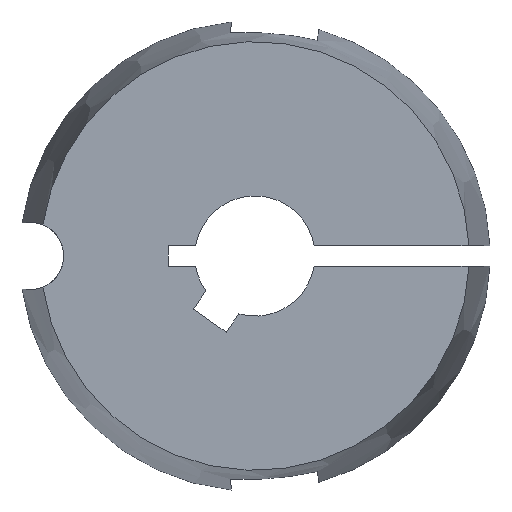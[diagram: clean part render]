
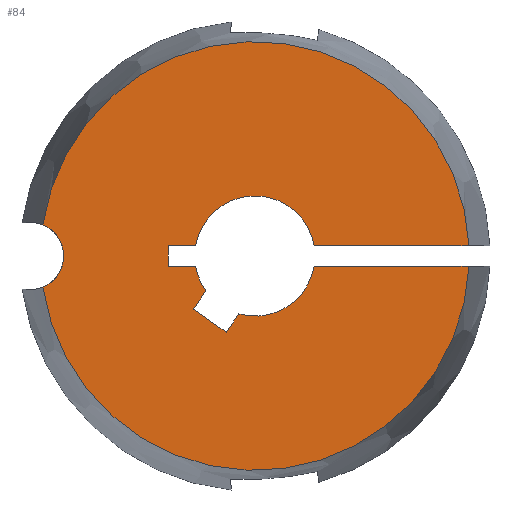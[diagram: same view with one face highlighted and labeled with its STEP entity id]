
A CAD part, left-side view. The second image highlights one B-rep face of the part: STEP entity #84.
In plain terms, the highlighted planar face has unit normal (-1, 0, 0).
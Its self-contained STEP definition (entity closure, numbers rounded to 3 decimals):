
#84 = ADVANCED_FACE( '', ( #114 ), #115, .F. );
#114 = FACE_OUTER_BOUND( '', #154, .T. );
#115 = PLANE( '', #155 );
#154 = EDGE_LOOP( '', ( #251, #252, #253, #254, #255, #256, #257, #258, #259, #260, #261, #262, #263, #264 ) );
#155 = AXIS2_PLACEMENT_3D( '', #265, #266, #267 );
#251 = ORIENTED_EDGE( '', *, *, #349, .T. );
#252 = ORIENTED_EDGE( '', *, *, #381, .F. );
#253 = ORIENTED_EDGE( '', *, *, #352, .T. );
#254 = ORIENTED_EDGE( '', *, *, #365, .T. );
#255 = ORIENTED_EDGE( '', *, *, #363, .T. );
#256 = ORIENTED_EDGE( '', *, *, #360, .T. );
#257 = ORIENTED_EDGE( '', *, *, #369, .T. );
#258 = ORIENTED_EDGE( '', *, *, #382, .T. );
#259 = ORIENTED_EDGE( '', *, *, #383, .T. );
#260 = ORIENTED_EDGE( '', *, *, #384, .T. );
#261 = ORIENTED_EDGE( '', *, *, #385, .T. );
#262 = ORIENTED_EDGE( '', *, *, #386, .T. );
#263 = ORIENTED_EDGE( '', *, *, #354, .T. );
#264 = ORIENTED_EDGE( '', *, *, #387, .F. );
#265 = CARTESIAN_POINT( '', ( -22.3, 0., 0. ) );
#266 = DIRECTION( '', ( 1., 0., 0. ) );
#267 = DIRECTION( '', ( 0., 1., 0. ) );
#349 = EDGE_CURVE( '', #402, #407, #409, .T. );
#352 = EDGE_CURVE( '', #415, #413, #416, .T. );
#354 = EDGE_CURVE( '', #418, #419, #420, .T. );
#360 = EDGE_CURVE( '', #431, #429, #432, .T. );
#363 = EDGE_CURVE( '', #436, #431, #437, .T. );
#365 = EDGE_CURVE( '', #413, #436, #439, .T. );
#369 = EDGE_CURVE( '', #429, #443, #445, .T. );
#381 = EDGE_CURVE( '', #415, #407, #465, .T. );
#382 = EDGE_CURVE( '', #443, #466, #467, .T. );
#383 = EDGE_CURVE( '', #466, #468, #469, .T. );
#384 = EDGE_CURVE( '', #468, #470, #471, .T. );
#385 = EDGE_CURVE( '', #470, #472, #473, .T. );
#386 = EDGE_CURVE( '', #472, #418, #474, .T. );
#387 = EDGE_CURVE( '', #402, #419, #475, .T. );
#402 = VERTEX_POINT( '', #513 );
#407 = VERTEX_POINT( '', #523 );
#409 = CIRCLE( '', #530, 2.55 );
#413 = VERTEX_POINT( '', #535 );
#415 = VERTEX_POINT( '', #538 );
#416 = LINE( '', #539, #540 );
#418 = VERTEX_POINT( '', #548 );
#419 = VERTEX_POINT( '', #549 );
#420 = LINE( '', #550, #551 );
#429 = VERTEX_POINT( '', #569 );
#431 = VERTEX_POINT( '', #572 );
#432 = LINE( '', #573, #574 );
#436 = VERTEX_POINT( '', #580 );
#437 = LINE( '', #581, #582 );
#439 = CIRCLE( '', #585, 4.5 );
#443 = VERTEX_POINT( '', #590 );
#445 = LINE( '', #593, #594 );
#465 = CIRCLE( '', #617, 16.041 );
#466 = VERTEX_POINT( '', #618 );
#467 = CIRCLE( '', #619, 4.5 );
#468 = VERTEX_POINT( '', #620 );
#469 = LINE( '', #621, #622 );
#470 = VERTEX_POINT( '', #623 );
#471 = LINE( '', #624, #625 );
#472 = VERTEX_POINT( '', #626 );
#473 = LINE( '', #627, #628 );
#474 = CIRCLE( '', #629, 4.5 );
#475 = CIRCLE( '', #630, 16.041 );
#513 = CARTESIAN_POINT( '', ( -22.3, 15.868, 2.347 ) );
#523 = CARTESIAN_POINT( '', ( -22.3, 15.868, -2.347 ) );
#530 = AXIS2_PLACEMENT_3D( '', #686, #687, #688 );
#535 = CARTESIAN_POINT( '', ( -22.3, -4.437, -0.75 ) );
#538 = CARTESIAN_POINT( '', ( -22.3, -16.023, -0.75 ) );
#539 = CARTESIAN_POINT( '', ( -22.3, -17.6, -0.75 ) );
#540 = VECTOR( '', #691, 1000. );
#548 = CARTESIAN_POINT( '', ( -22.3, -4.437, 0.75 ) );
#549 = CARTESIAN_POINT( '', ( -22.3, -16.023, 0.75 ) );
#550 = CARTESIAN_POINT( '', ( -22.3, 0., 0.75 ) );
#551 = VECTOR( '', #692, 1000. );
#569 = CARTESIAN_POINT( '', ( -22.3, 4.613, -3.973 ) );
#572 = CARTESIAN_POINT( '', ( -22.3, 2.155, -5.693 ) );
#573 = CARTESIAN_POINT( '', ( -22.3, 2.155, -5.693 ) );
#574 = VECTOR( '', #697, 1000. );
#580 = CARTESIAN_POINT( '', ( -22.3, 1.205, -4.336 ) );
#581 = CARTESIAN_POINT( '', ( -22.3, 1.205, -4.336 ) );
#582 = VECTOR( '', #700, 1000. );
#585 = AXIS2_PLACEMENT_3D( '', #702, #703, #704 );
#590 = CARTESIAN_POINT( '', ( -22.3, 3.662, -2.615 ) );
#593 = CARTESIAN_POINT( '', ( -22.3, 4.613, -3.973 ) );
#594 = VECTOR( '', #710, 1000. );
#617 = AXIS2_PLACEMENT_3D( '', #738, #739, #740 );
#618 = CARTESIAN_POINT( '', ( -22.3, 4.437, -0.75 ) );
#619 = AXIS2_PLACEMENT_3D( '', #741, #742, #743 );
#620 = CARTESIAN_POINT( '', ( -22.3, 6.5, -0.75 ) );
#621 = CARTESIAN_POINT( '', ( -22.3, 0., -0.75 ) );
#622 = VECTOR( '', #744, 1000. );
#623 = CARTESIAN_POINT( '', ( -22.3, 6.5, 0.75 ) );
#624 = CARTESIAN_POINT( '', ( -22.3, 6.5, -0.75 ) );
#625 = VECTOR( '', #745, 1000. );
#626 = CARTESIAN_POINT( '', ( -22.3, 4.437, 0.75 ) );
#627 = CARTESIAN_POINT( '', ( -22.3, 6.5, 0.75 ) );
#628 = VECTOR( '', #746, 1000. );
#629 = AXIS2_PLACEMENT_3D( '', #747, #748, #749 );
#630 = AXIS2_PLACEMENT_3D( '', #750, #751, #752 );
#686 = CARTESIAN_POINT( '', ( -22.3, 16.865, 0. ) );
#687 = DIRECTION( '', ( 1., 0., 0. ) );
#688 = DIRECTION( '', ( 0., 1., 0. ) );
#691 = DIRECTION( '', ( 0., 1., 0. ) );
#692 = DIRECTION( '', ( 0., -1., 0. ) );
#697 = DIRECTION( '', ( 0., 0.819, 0.574 ) );
#700 = DIRECTION( '', ( 0., 0.574, -0.819 ) );
#702 = CARTESIAN_POINT( '', ( -22.3, 0., 0. ) );
#703 = DIRECTION( '', ( 1., 0., 0. ) );
#704 = DIRECTION( '', ( 0., 0., -1. ) );
#710 = DIRECTION( '', ( 0., -0.574, 0.819 ) );
#738 = CARTESIAN_POINT( '', ( -22.3, 0., 0. ) );
#739 = DIRECTION( '', ( 1., 0., 0. ) );
#740 = DIRECTION( '', ( 0., 1., 0. ) );
#741 = CARTESIAN_POINT( '', ( -22.3, 0., 0. ) );
#742 = DIRECTION( '', ( 1., 0., 0. ) );
#743 = DIRECTION( '', ( 0., 0., -1. ) );
#744 = DIRECTION( '', ( 0., 1., 0. ) );
#745 = DIRECTION( '', ( 0., 0., 1. ) );
#746 = DIRECTION( '', ( 0., -1., 0. ) );
#747 = CARTESIAN_POINT( '', ( -22.3, 0., 0. ) );
#748 = DIRECTION( '', ( 1., 0., 0. ) );
#749 = DIRECTION( '', ( 0., 0., -1. ) );
#750 = CARTESIAN_POINT( '', ( -22.3, 0., 0. ) );
#751 = DIRECTION( '', ( 1., 0., 0. ) );
#752 = DIRECTION( '', ( 0., 1., 0. ) );
